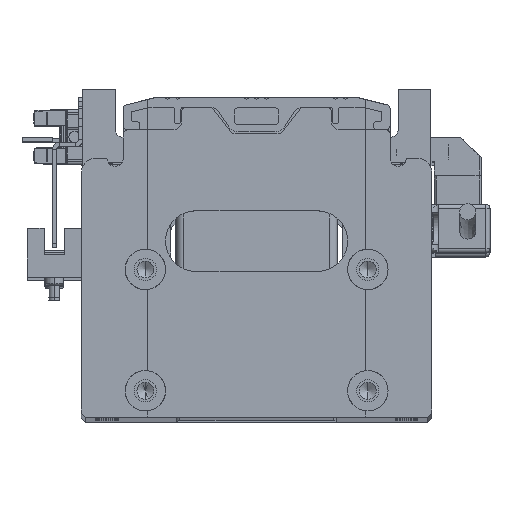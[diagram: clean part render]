
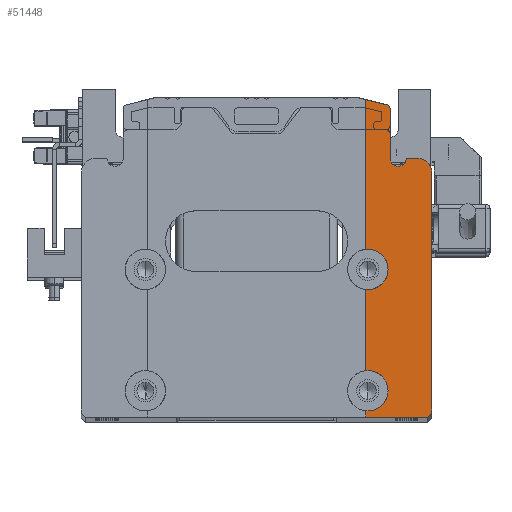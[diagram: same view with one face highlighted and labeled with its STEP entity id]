
A CAD part, top view. The second image highlights one B-rep face of the part: STEP entity #51448.
In plain terms, the highlighted planar face has unit normal (0, 0, 1).
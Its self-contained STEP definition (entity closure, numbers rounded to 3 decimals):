
#425 = DIRECTION ( 'NONE',  ( -1., 0., 0. ) ) ;
#533 = DIRECTION ( 'NONE',  ( 0., -1., 0. ) ) ;
#1165 = EDGE_CURVE ( 'NONE', #4364, #2750, #20020, .T. ) ;
#1763 = ORIENTED_EDGE ( 'NONE', *, *, #24340, .T. ) ;
#1825 = ORIENTED_EDGE ( 'NONE', *, *, #44524, .T. ) ;
#1843 = EDGE_CURVE ( 'NONE', #51349, #3491, #5892, .T. ) ;
#1891 = DIRECTION ( 'NONE',  ( 0., -1., 0. ) ) ;
#2750 = VERTEX_POINT ( 'NONE', #45598 ) ;
#3480 = VERTEX_POINT ( 'NONE', #14802 ) ;
#3491 = VERTEX_POINT ( 'NONE', #22244 ) ;
#3881 = AXIS2_PLACEMENT_3D ( 'NONE', #49132, #16631, #425 ) ;
#4364 = VERTEX_POINT ( 'NONE', #9704 ) ;
#4808 = AXIS2_PLACEMENT_3D ( 'NONE', #39487, #15640, #43761 ) ;
#5254 = EDGE_CURVE ( 'NONE', #29346, #49535, #50301, .T. ) ;
#5282 = DIRECTION ( 'NONE',  ( 0., 0., -1. ) ) ;
#5553 = CARTESIAN_POINT ( 'NONE',  ( 43.3, -38.5, 12.5 ) ) ;
#5892 = LINE ( 'NONE', #46603, #26918 ) ;
#6099 = ORIENTED_EDGE ( 'NONE', *, *, #5254, .T. ) ;
#6767 = CARTESIAN_POINT ( 'NONE',  ( 0., 0., 12.5 ) ) ;
#8436 = CARTESIAN_POINT ( 'NONE',  ( 27.5, -3., 12.5 ) ) ;
#8893 = DIRECTION ( 'NONE',  ( -1., 0., 0. ) ) ;
#9017 = CARTESIAN_POINT ( 'NONE',  ( 27., -7.975, 12.5 ) ) ;
#9430 = CARTESIAN_POINT ( 'NONE',  ( 26., 38.219, 12.5 ) ) ;
#9512 = ORIENTED_EDGE ( 'NONE', *, *, #27046, .T. ) ;
#9704 = CARTESIAN_POINT ( 'NONE',  ( 27., -37.975, 12.5 ) ) ;
#9965 = CARTESIAN_POINT ( 'NONE',  ( 43.3, 39.5, 12.5 ) ) ;
#10377 = LINE ( 'NONE', #27611, #51713 ) ;
#10758 = EDGE_CURVE ( 'NONE', #23425, #4364, #32827, .T. ) ;
#10804 = AXIS2_PLACEMENT_3D ( 'NONE', #16674, #28428, #49175 ) ;
#11185 = LINE ( 'NONE', #41644, #29621 ) ;
#11204 = LINE ( 'NONE', #43501, #13763 ) ;
#11285 = DIRECTION ( 'NONE',  ( 0., 0., -1. ) ) ;
#12330 = EDGE_LOOP ( 'NONE', ( #1763, #35212, #1825, #21239, #35386, #6099, #45019, #17899, #9512, #24704, #25979, #26943, #19485, #21792, #13051, #20470, #25023 ) ) ;
#12496 = VERTEX_POINT ( 'NONE', #9017 ) ;
#13051 = ORIENTED_EDGE ( 'NONE', *, *, #50113, .T. ) ;
#13407 = AXIS2_PLACEMENT_3D ( 'NONE', #24618, #11285, #39722 ) ;
#13568 = CARTESIAN_POINT ( 'NONE',  ( 10.765, 43.059, 12.5 ) ) ;
#13732 = AXIS2_PLACEMENT_3D ( 'NONE', #34161, #5282, #21655 ) ;
#13763 = VECTOR ( 'NONE', #24424, 1000. ) ;
#13954 = DIRECTION ( 'NONE',  ( -0.97, 0.243, 0. ) ) ;
#14067 = DIRECTION ( 'NONE',  ( 0., 1., 0. ) ) ;
#14802 = CARTESIAN_POINT ( 'NONE',  ( 32.243, 37.689, 12.5 ) ) ;
#15640 = DIRECTION ( 'NONE',  ( 0., 0., 1. ) ) ;
#15929 = VERTEX_POINT ( 'NONE', #24698 ) ;
#16613 = CARTESIAN_POINT ( 'NONE',  ( 32.5, -3., 12.5 ) ) ;
#16631 = DIRECTION ( 'NONE',  ( 0., 0., -1. ) ) ;
#16674 = CARTESIAN_POINT ( 'NONE',  ( 39.8, 21., 12.5 ) ) ;
#16771 = VECTOR ( 'NONE', #1891, 1000. ) ;
#16947 = DIRECTION ( 'NONE',  ( 1., 0., 0. ) ) ;
#17899 = ORIENTED_EDGE ( 'NONE', *, *, #39523, .T. ) ;
#18697 = VERTEX_POINT ( 'NONE', #52022 ) ;
#18949 = EDGE_CURVE ( 'NONE', #15929, #3480, #25433, .T. ) ;
#19485 = ORIENTED_EDGE ( 'NONE', *, *, #28509, .T. ) ;
#19904 = VECTOR ( 'NONE', #533, 1000. ) ;
#19941 = CARTESIAN_POINT ( 'NONE',  ( 32.5, -33., 12.5 ) ) ;
#20020 = LINE ( 'NONE', #42777, #16771 ) ;
#20470 = ORIENTED_EDGE ( 'NONE', *, *, #1843, .T. ) ;
#20826 = LINE ( 'NONE', #36648, #31692 ) ;
#21047 = AXIS2_PLACEMENT_3D ( 'NONE', #6767, #51686, #27405 ) ;
#21239 = ORIENTED_EDGE ( 'NONE', *, *, #46585, .T. ) ;
#21299 = DIRECTION ( 'NONE',  ( 0., 0., -1. ) ) ;
#21401 = VERTEX_POINT ( 'NONE', #5553 ) ;
#21569 = VECTOR ( 'NONE', #14067, 1000. ) ;
#21655 = DIRECTION ( 'NONE',  ( -1., 0., 0. ) ) ;
#21792 = ORIENTED_EDGE ( 'NONE', *, *, #34535, .T. ) ;
#22153 = CIRCLE ( 'NONE', #13407, 2. ) ;
#22244 = CARTESIAN_POINT ( 'NONE',  ( 37., 24.5, 12.5 ) ) ;
#22965 = EDGE_CURVE ( 'NONE', #2750, #18697, #11185, .T. ) ;
#23425 = VERTEX_POINT ( 'NONE', #19941 ) ;
#24340 = EDGE_CURVE ( 'NONE', #30912, #15929, #10377, .T. ) ;
#24424 = DIRECTION ( 'NONE',  ( 0., -1., 0. ) ) ;
#24618 = CARTESIAN_POINT ( 'NONE',  ( 35., 24.5, 12.5 ) ) ;
#24698 = CARTESIAN_POINT ( 'NONE',  ( 33., 36.719, 12.5 ) ) ;
#24704 = ORIENTED_EDGE ( 'NONE', *, *, #10758, .T. ) ;
#24952 = CIRCLE ( 'NONE', #39328, 1. ) ;
#25023 = ORIENTED_EDGE ( 'NONE', *, *, #27894, .T. ) ;
#25433 = CIRCLE ( 'NONE', #4808, 1. ) ;
#25979 = ORIENTED_EDGE ( 'NONE', *, *, #1165, .T. ) ;
#26918 = VECTOR ( 'NONE', #42893, 1000. ) ;
#26943 = ORIENTED_EDGE ( 'NONE', *, *, #22965, .T. ) ;
#27046 = EDGE_CURVE ( 'NONE', #31806, #23425, #28361, .T. ) ;
#27405 = DIRECTION ( 'NONE',  ( -1., 0., 0. ) ) ;
#27611 = CARTESIAN_POINT ( 'NONE',  ( 33., 0., 12.5 ) ) ;
#27894 = EDGE_CURVE ( 'NONE', #3491, #30912, #22153, .T. ) ;
#28361 = CIRCLE ( 'NONE', #13732, 5. ) ;
#28364 = LINE ( 'NONE', #13568, #44896 ) ;
#28428 = DIRECTION ( 'NONE',  ( 0., 0., 1. ) ) ;
#28509 = EDGE_CURVE ( 'NONE', #18697, #21401, #20826, .T. ) ;
#28645 = VERTEX_POINT ( 'NONE', #41421 ) ;
#29176 = CARTESIAN_POINT ( 'NONE',  ( 33., 24.5, 12.5 ) ) ;
#29346 = VERTEX_POINT ( 'NONE', #39573 ) ;
#29620 = AXIS2_PLACEMENT_3D ( 'NONE', #33250, #21299, #8893 ) ;
#29621 = VECTOR ( 'NONE', #16947, 1000. ) ;
#30912 = VERTEX_POINT ( 'NONE', #29176 ) ;
#31692 = VECTOR ( 'NONE', #36988, 1000. ) ;
#31737 = EDGE_CURVE ( 'NONE', #44277, #29346, #11204, .T. ) ;
#31806 = VERTEX_POINT ( 'NONE', #40108 ) ;
#32244 = DIRECTION ( 'NONE',  ( 0., 1., 0. ) ) ;
#32584 = EDGE_CURVE ( 'NONE', #49535, #12496, #34722, .T. ) ;
#32810 = DIRECTION ( 'NONE',  ( -1., 0., 0. ) ) ;
#32827 = CIRCLE ( 'NONE', #3881, 5. ) ;
#33250 = CARTESIAN_POINT ( 'NONE',  ( 27.5, -3., 12.5 ) ) ;
#33261 = DIRECTION ( 'NONE',  ( 0., 0., -1. ) ) ;
#33648 = DIRECTION ( 'NONE',  ( -1., 0., 0. ) ) ;
#33662 = CARTESIAN_POINT ( 'NONE',  ( 39.8, 24.5, 12.5 ) ) ;
#34161 = CARTESIAN_POINT ( 'NONE',  ( 27.5, -33., 12.5 ) ) ;
#34535 = EDGE_CURVE ( 'NONE', #21401, #28645, #44493, .T. ) ;
#34722 = CIRCLE ( 'NONE', #50706, 5. ) ;
#35212 = ORIENTED_EDGE ( 'NONE', *, *, #18949, .T. ) ;
#35386 = ORIENTED_EDGE ( 'NONE', *, *, #31737, .T. ) ;
#36648 = CARTESIAN_POINT ( 'NONE',  ( 43.3, -38.5, 12.5 ) ) ;
#36988 = DIRECTION ( 'NONE',  ( 0.707, 0.707, 0. ) ) ;
#37065 = DIRECTION ( 'NONE',  ( 0., 0., -1. ) ) ;
#37694 = LINE ( 'NONE', #49421, #19904 ) ;
#39328 = AXIS2_PLACEMENT_3D ( 'NONE', #9430, #33261, #33648 ) ;
#39487 = CARTESIAN_POINT ( 'NONE',  ( 32., 36.719, 12.5 ) ) ;
#39523 = EDGE_CURVE ( 'NONE', #12496, #31806, #37694, .T. ) ;
#39573 = CARTESIAN_POINT ( 'NONE',  ( 27., 1.975, 12.5 ) ) ;
#39722 = DIRECTION ( 'NONE',  ( -1., 0., 0. ) ) ;
#40108 = CARTESIAN_POINT ( 'NONE',  ( 27., -28.025, 12.5 ) ) ;
#40168 = CARTESIAN_POINT ( 'NONE',  ( 27., 38.219, 12.5 ) ) ;
#41421 = CARTESIAN_POINT ( 'NONE',  ( 43.3, 21., 12.5 ) ) ;
#41644 = CARTESIAN_POINT ( 'NONE',  ( 43.3, -39.5, 12.5 ) ) ;
#42015 = CARTESIAN_POINT ( 'NONE',  ( 26.243, 39.189, 12.5 ) ) ;
#42777 = CARTESIAN_POINT ( 'NONE',  ( 27., 39.5, 12.5 ) ) ;
#42893 = DIRECTION ( 'NONE',  ( -1., 0., 0. ) ) ;
#43501 = CARTESIAN_POINT ( 'NONE',  ( 27., 39.5, 12.5 ) ) ;
#43761 = DIRECTION ( 'NONE',  ( -1., 0., 0. ) ) ;
#43792 = CIRCLE ( 'NONE', #10804, 3.5 ) ;
#44277 = VERTEX_POINT ( 'NONE', #40168 ) ;
#44493 = LINE ( 'NONE', #9965, #21569 ) ;
#44524 = EDGE_CURVE ( 'NONE', #3480, #46054, #28364, .T. ) ;
#44896 = VECTOR ( 'NONE', #13954, 1000. ) ;
#45019 = ORIENTED_EDGE ( 'NONE', *, *, #32584, .T. ) ;
#45598 = CARTESIAN_POINT ( 'NONE',  ( 27., -39.5, 12.5 ) ) ;
#46054 = VERTEX_POINT ( 'NONE', #42015 ) ;
#46585 = EDGE_CURVE ( 'NONE', #46054, #44277, #24952, .T. ) ;
#46603 = CARTESIAN_POINT ( 'NONE',  ( 0., 24.5, 12.5 ) ) ;
#47659 = PLANE ( 'NONE',  #21047 ) ;
#49132 = CARTESIAN_POINT ( 'NONE',  ( 27.5, -33., 12.5 ) ) ;
#49175 = DIRECTION ( 'NONE',  ( -1., 0., 0. ) ) ;
#49265 = FACE_OUTER_BOUND ( 'NONE', #12330, .T. ) ;
#49421 = CARTESIAN_POINT ( 'NONE',  ( 27., 39.5, 12.5 ) ) ;
#49535 = VERTEX_POINT ( 'NONE', #16613 ) ;
#50113 = EDGE_CURVE ( 'NONE', #28645, #51349, #43792, .T. ) ;
#50301 = CIRCLE ( 'NONE', #29620, 5. ) ;
#50706 = AXIS2_PLACEMENT_3D ( 'NONE', #8436, #37065, #32810 ) ;
#51349 = VERTEX_POINT ( 'NONE', #33662 ) ;
#51448 = ADVANCED_FACE ( 'NONE', ( #49265 ), #47659, .F. ) ;
#51686 = DIRECTION ( 'NONE',  ( 0., 0., -1. ) ) ;
#51713 = VECTOR ( 'NONE', #32244, 1000. ) ;
#52022 = CARTESIAN_POINT ( 'NONE',  ( 42.3, -39.5, 12.5 ) ) ;
